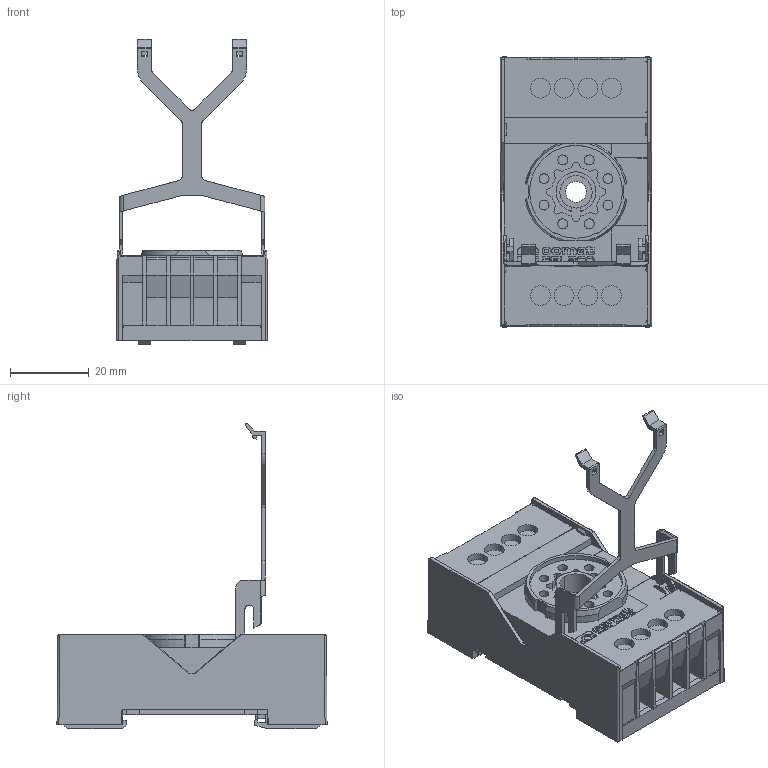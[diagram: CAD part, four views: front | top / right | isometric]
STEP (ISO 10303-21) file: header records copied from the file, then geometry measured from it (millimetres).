
FILE_DESCRIPTION (( 'STEP AP214' ), '1' );
FILE_NAME ('S2-B.STEP', '2024-04-11T06:18:51', ( '' ), ( '' ), 'SwSTEP 2.0', 'SolidWorks 2022', '' );
FILE_SCHEMA (( 'AUTOMOTIVE_DESIGN' ));
Length unit declared in the file: millimetre
Products named in the file (1): S2-B
Bounding box: 38.34 x 68.38 x 77.37 mm (x, y, z)
Volume: 47453.3 mm3; surface area: 16539.6 mm2
Topology: 1 solids, 1 shells, 975 faces, 2669 edges, 1711 vertices
Faces by surface type: plane 737, cylinder 147, bspline 81, cone 10
Entity records: 41705 total; most frequent: CARTESIAN_POINT 6956, ORIENTED_EDGE 5330, DIRECTION 4447, EDGE_CURVE 2665, VECTOR 2143, LINE 2143, VERTEX_POINT 1711, AXIS2_PLACEMENT_3D 1152
